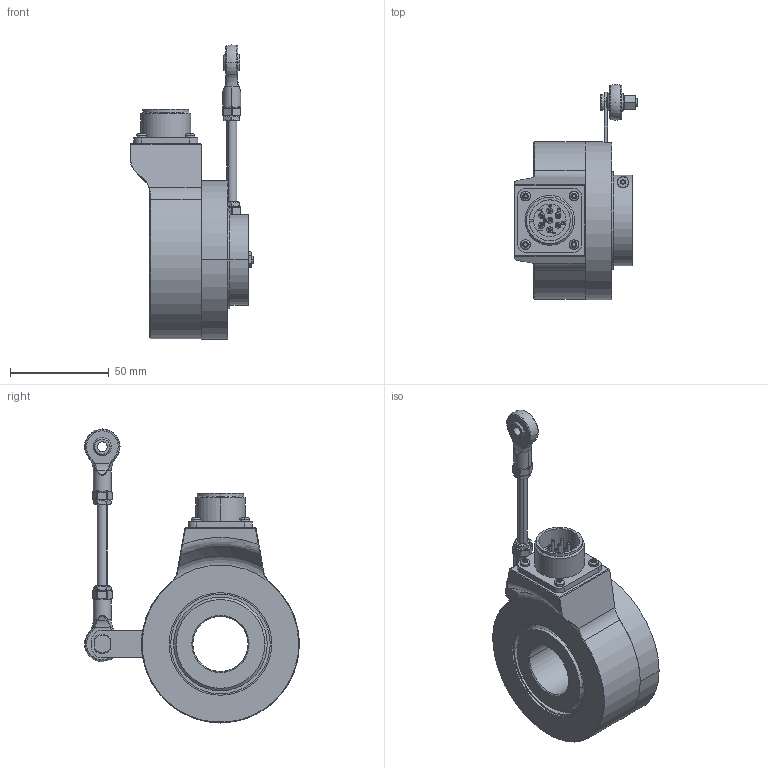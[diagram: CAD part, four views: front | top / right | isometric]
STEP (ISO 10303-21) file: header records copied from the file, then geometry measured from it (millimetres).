
FILE_DESCRIPTION (( 'STEP AP203' ), '1' );
FILE_NAME ('K80I.OXX.XXXXX.XH16828.6XRCH.step', '2025-12-09T08:19:05', ( '' ), ( '' ), 'SwSTEP 2.0', 'SolidWorks 2021', '' );
FILE_SCHEMA (( 'CONFIG_CONTROL_DESIGN' ));
Length unit declared in the file: millimetre
Products named in the file (1): K80I.OXX.XXXXX.XH16828.6XRCH
Bounding box: 62.6 x 108.97 x 149.07 mm (x, y, z)
Volume: 226840 mm3; surface area: 66408 mm2
Topology: 14 solids, 14 shells, 803 faces, 2006 edges, 1255 vertices
Faces by surface type: plane 297, cylinder 251, bspline 102, cone 91, torus 48, sphere 14
Entity records: 29094 total; most frequent: CARTESIAN_POINT 10364, ORIENTED_EDGE 3936, DIRECTION 3840, EDGE_CURVE 1968, AXIS2_PLACEMENT_3D 1480, VERTEX_POINT 1251, EDGE_LOOP 885, LINE 880
